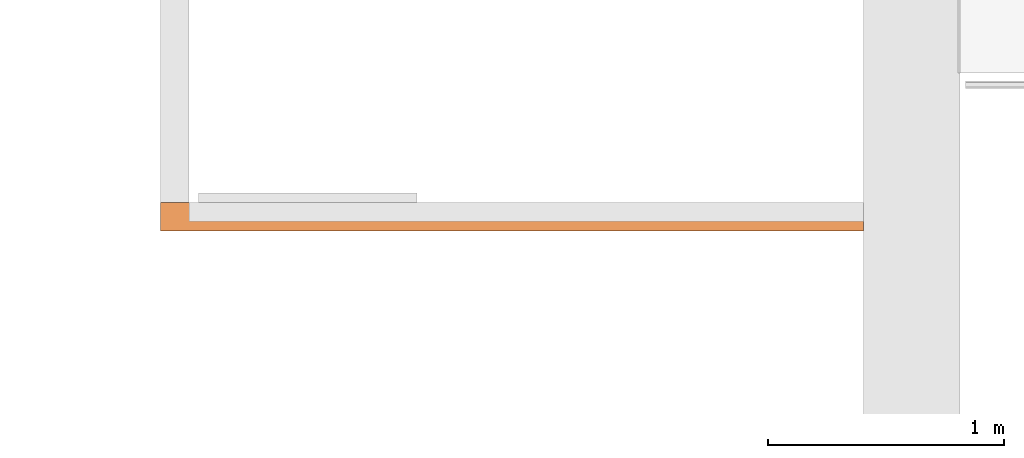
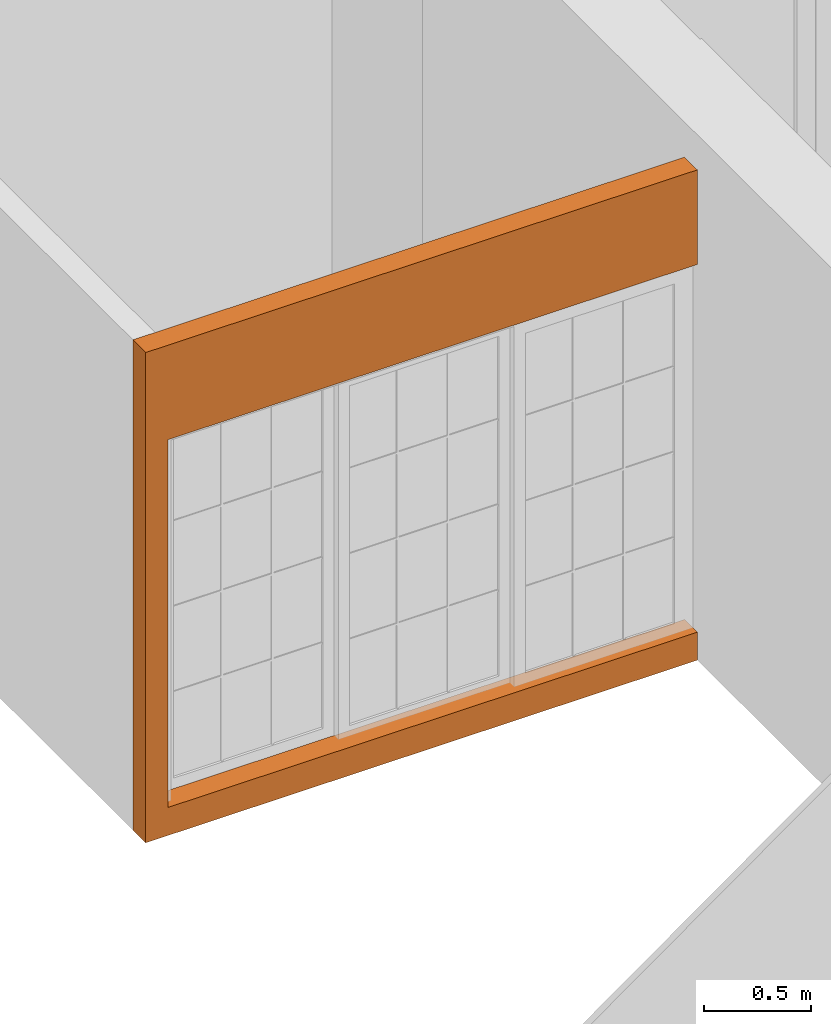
# One storey, part 40 of 64: 1 proxy, 1 opening.
"""IFC2X3 building model written with IfcOpenShell, lengths in millimetres."""

import ifcopenshell
import ifcopenshell.guid

model = None  # the IFC model being written
_history = None  # IfcOwnerHistory: only IFC2X3 demands one
_inside = {}  # id of a spatial element -> (the spatial element, [elements in it])
_under = {}  # id of a project, library or spatial element -> (it, [spatial elements below it])
_declared = {}  # id of a project -> (the project, [libraries it declares])
_typed = {}  # id of a type object -> (the type object, [elements of that type])
_made_of = {}  # id of a material, layer set ... -> (it, [elements and type objects made of it])


def new_model(schema):
    """Start an empty IFC model of exactly this schema.

    Asked for "IFC4X3", IfcOpenShell would pick the latest addendum, in which some entities
    have other attributes; the version numbers below select the first issue.
    IFC2X3 requires an IfcOwnerHistory on every rooted entity: one is made here for all.
    """
    global model, _history
    if schema == "IFC4X3":
        model = ifcopenshell.file(schema_version=(4, 3, 0, 0))
    else:
        model = ifcopenshell.file(schema=schema)
    _inside.clear()
    _under.clear()
    _declared.clear()
    _typed.clear()
    _made_of.clear()
    _history = None
    if model.schema == "IFC2X3":
        org = make("IfcOrganization", Name="unknown")
        user = make(
            "IfcPersonAndOrganization",
            ThePerson=make("IfcPerson", FamilyName="unknown"),
            TheOrganization=org,
        )
        app = make(
            "IfcApplication",
            ApplicationDeveloper=org,
            Version="unknown",
            ApplicationFullName="unknown",
            ApplicationIdentifier="unknown",
        )
        _history = make(
            "IfcOwnerHistory",
            OwningUser=user,
            OwningApplication=app,
            ChangeAction="ADDED",
            CreationDate=0,
        )
    return model


def make(cls, **values):
    """One entity of the class cls with the attributes given. An attribute that is None is left unset."""
    return model.create_entity(
        cls, **{name: value for name, value in values.items() if value is not None}
    )


def entity(cls, *values):
    """Any entity or typed value of the class cls, its attributes in the order of the schema. None: left unset."""
    e = model.create_entity(cls)
    for i, value in enumerate(values):
        if value is not None:
            e[i] = value
    return e


def rooted(cls, **values):
    """An entity with a GlobalId (a new one), such as an element, a storey or a relation."""
    return make(cls, GlobalId=ifcopenshell.guid.new(), OwnerHistory=_history, **values)


def si_unit(unit_type, name, prefix=None):
    """IfcSIUnit, for example si_unit("LENGTHUNIT", "METRE", prefix="MILLI")."""
    return make("IfcSIUnit", UnitType=unit_type, Prefix=prefix, Name=name)


def converted_unit(unit_type, name, factor, base, dimensions=None, offset=None):
    """IfcConversionBasedUnit, such as the inch: factor (a typed value) times the base unit."""
    return make(
        "IfcConversionBasedUnit"
        if offset is None
        else "IfcConversionBasedUnitWithOffset",
        ConversionOffset=offset,
        Dimensions=None
        if dimensions is None
        else entity("IfcDimensionalExponents", *dimensions),
        UnitType=unit_type,
        Name=name,
        ConversionFactor=make(
            "IfcMeasureWithUnit", ValueComponent=factor, UnitComponent=base
        ),
    )


def derived_unit(unit_type, elements):
    """IfcDerivedUnit: a product of units, each with its exponent."""
    return make(
        "IfcDerivedUnit",
        Elements=[
            make("IfcDerivedUnitElement", Unit=unit, Exponent=power)
            for unit, power in elements
        ],
        UnitType=unit_type,
    )


def money_unit(currency):
    """IfcMonetaryUnit."""
    return make("IfcMonetaryUnit", Currency=currency)


def assignment(units):
    """IfcUnitAssignment: the units of a project."""
    return None if units is None else make("IfcUnitAssignment", Units=units)


def point(xyz):
    """IfcCartesianPoint."""
    return None if xyz is None else make("IfcCartesianPoint", Coordinates=xyz)


def direction(xyz):
    """IfcDirection."""
    return None if xyz is None else make("IfcDirection", DirectionRatios=xyz)


def frame(location, z_axis=None, x_axis=None):
    """IfcAxis2Placement3D, a coordinate frame: its origin and axes. An axis left out is left unset."""
    return make(
        "IfcAxis2Placement3D",
        Location=point(location),
        Axis=direction(z_axis),
        RefDirection=direction(x_axis),
    )


def frame_2d(location, x_axis=None):
    """IfcAxis2Placement2D, a coordinate frame in the plane: its origin and x axis."""
    return make(
        "IfcAxis2Placement2D", Location=point(location), RefDirection=direction(x_axis)
    )


def origin_with_axes():
    """The frame at (0, 0, 0) with the z axis (0, 0, 1) and the x axis (1, 0, 0) written out."""
    return frame((0.0, 0.0, 0.0), z_axis=(0.0, 0.0, 1.0), x_axis=(1.0, 0.0, 0.0))


def origin_2d_with_axis():
    """The frame at (0, 0) in the plane with the x axis (1, 0) written out."""
    return frame_2d((0.0, 0.0), x_axis=(1.0, 0.0))


def place(relative_to, where):
    """IfcLocalPlacement: puts the frame where relative to a parent placement (None: the world)."""
    return make(
        "IfcLocalPlacement", PlacementRelTo=relative_to, RelativePlacement=where
    )


def context(
    kind, dimensions, precision=None, world=None, true_north=None, identifier=None
):
    """IfcGeometricRepresentationContext, for example the 3D "Model" context."""
    return make(
        "IfcGeometricRepresentationContext",
        ContextIdentifier=identifier,
        ContextType=kind,
        CoordinateSpaceDimension=dimensions,
        Precision=precision,
        WorldCoordinateSystem=world,
        TrueNorth=true_north,
    )


def subcontext(parent, identifier, kind, view, scale=None):
    """IfcGeometricRepresentationSubContext, for example "Body" below "Model"."""
    return make(
        "IfcGeometricRepresentationSubContext",
        ContextIdentifier=identifier,
        ContextType=kind,
        ParentContext=parent,
        TargetScale=scale,
        TargetView=view,
    )


def project(units=None, contexts=None):
    """IfcProject with its units and contexts."""
    return rooted(
        "IfcProject",
        Name="project",
        RepresentationContexts=contexts,
        UnitsInContext=assignment(units),
    )


def spatial(cls, under=None, at=None, **own):
    """A site, building, storey or space (cls), placed at a placement, below another one or the project."""
    s = rooted(cls, ObjectPlacement=at, **own)
    if under is not None:
        _under.setdefault(under.id(), (under, []))[1].append(s)
    return s


def profile(cls, at=None, kind="AREA", **sizes):
    """A parametric profile (cls). Its sizes go by their IFC names, for example OverallWidth=200.0."""
    return make(cls, ProfileType=kind, Position=at, **sizes)


def rectangle(**sizes):
    """IfcRectangleProfileDef."""
    return profile("IfcRectangleProfileDef", **sizes)


def extrude(swept, where, along, depth):
    """IfcExtrudedAreaSolid: the profile swept, set in the frame where, extruded along a direction by depth."""
    return make(
        "IfcExtrudedAreaSolid",
        SweptArea=swept,
        Position=where,
        ExtrudedDirection=direction(along),
        Depth=depth,
    )


def faces_of(points, faces, orient=None, outer=None):
    """IfcFace entities. A face is a list of loops; a loop is a list of indices into points, from 0.

    orient and outer hold one flag for each loop. By default every Orientation is true, the
    first loop of a face is its IfcFaceOuterBound and the others are IfcFaceBound.
    """
    made = []
    for i, loops in enumerate(faces):
        bounds = []
        for j, loop in enumerate(loops):
            is_outer = j == 0 if outer is None else outer[i][j]
            bounds.append(
                make(
                    "IfcFaceOuterBound" if is_outer else "IfcFaceBound",
                    Bound=make("IfcPolyLoop", Polygon=[points[k] for k in loop]),
                    Orientation=True if orient is None else orient[i][j],
                )
            )
        made.append(make("IfcFace", Bounds=bounds))
    return made


def faceted_brep(points, faces, orient=None, outer=None, voids=None):
    """IfcFacetedBrep: a solid bounded by flat faces; with voids (closed shells), ...WithVoids."""
    shared = [point(p) for p in points]
    hull = make("IfcClosedShell", CfsFaces=faces_of(shared, faces, orient, outer))
    if voids is None:
        return make("IfcFacetedBrep", Outer=hull)
    return make(
        "IfcFacetedBrepWithVoids",
        Outer=hull,
        Voids=[
            make(cls, CfsFaces=faces_of(shared, fs, o, b)) for cls, fs, o, b in voids
        ],
    )


def shape(context_of_items, identifier, shape_type, items):
    """IfcShapeRepresentation: the items that make up one representation, for example the "Body"."""
    return make(
        "IfcShapeRepresentation",
        ContextOfItems=context_of_items,
        RepresentationIdentifier=identifier,
        RepresentationType=shape_type,
        Items=items,
    )


def material(Name=None, Category=None):
    """IfcMaterial."""
    return make("IfcMaterial", Name=Name, Category=Category)


def made_of(thing, what):
    """Note that an element or type object is made of a material, layer set ...; save() writes the relation."""
    if what is not None:
        _made_of.setdefault(what.id(), (what, []))[1].append(thing)
    return thing


def type_object(cls, material=None, **own):
    """A type object (cls), such as IfcWallType, which elements share."""
    return made_of(rooted(cls, **own), material)


def element(
    cls,
    number,
    at=None,
    inside=None,
    cuts=None,
    type_object=None,
    material=None,
    context=None,
    identifier="Body",
    shape_type=None,
    held_by="IfcProductDefinitionShape",
    body=None,
    shapes=None,
    **own,
):
    """One element of the class cls, such as IfcWall. Its Tag is "e" and its number.

    at: its placement. inside: the storey or other place that contains it. cuts: it is an
    opening in that element (IfcRelVoidsElement). A single representation is given by context,
    identifier, shape_type and body (its items); several are given by shapes. held_by: the class
    of the entity that holds the representations. save() writes the other relations.
    """
    e = rooted(cls, Tag="e%d" % number, ObjectPlacement=at, **own)
    if body is not None:
        shapes = [shape(context, identifier, shape_type, body)]
    if shapes is not None:
        e.Representation = make(held_by, Representations=shapes)
    if inside is not None:
        _inside.setdefault(inside.id(), (inside, []))[1].append(e)
    if cuts is not None:
        rooted(
            "IfcRelVoidsElement", RelatingBuildingElement=cuts, RelatedOpeningElement=e
        )
    if type_object is not None:
        _typed.setdefault(type_object.id(), (type_object, []))[1].append(e)
    return made_of(e, material)


def aggregate(whole, parts):
    """IfcRelAggregates: a whole, such as a stair, and the parts it consists of."""
    return rooted("IfcRelAggregates", RelatingObject=whole, RelatedObjects=parts)


def save(model, path):
    """Write the relations noted so far, then the file.

    IfcRelAggregates (storeys below a building ...), IfcRelContainedInSpatialStructure (elements
    in a storey), IfcRelDefinesByType, IfcRelAssociatesMaterial and IfcRelDeclares: one each for
    every whole, place, type object, material and project.
    """
    for whole, parts in _under.values():
        aggregate(whole, parts)
    for where, things in _inside.values():
        rooted(
            "IfcRelContainedInSpatialStructure",
            RelatedElements=things,
            RelatingStructure=where,
        )
    for kind, things in _typed.values():
        rooted("IfcRelDefinesByType", RelatedObjects=things, RelatingType=kind)
    for what, things in _made_of.values():
        rooted("IfcRelAssociatesMaterial", RelatedObjects=things, RelatingMaterial=what)
    for by, libraries in _declared.values():
        rooted("IfcRelDeclares", RelatingContext=by, RelatedDefinitions=libraries)
    model.write(path)


model = new_model("IFC2X3")

# Units and contexts
model_context = context("Model", 3, precision=0.01, world=origin_with_axes(), true_north=direction((0.34421633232, 0.938890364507)))
body_context = subcontext(model_context, "Body", "Model", "MODEL_VIEW")
ifc_project = project(units=[si_unit("LENGTHUNIT", "METRE", prefix="MILLI"), si_unit("AREAUNIT", "SQUARE_METRE"), si_unit("VOLUMEUNIT", "CUBIC_METRE"), converted_unit("PLANEANGLEUNIT", "DEGREE", entity("IfcPlaneAngleMeasure", 0.0174532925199), si_unit("PLANEANGLEUNIT", "RADIAN"), dimensions=[0, 0, 0, 0, 0, 0, 0]), si_unit("SOLIDANGLEUNIT", "STERADIAN"), money_unit("USD"), converted_unit("TIMEUNIT", "Year", entity("IfcTimeMeasure", 31556926.0), si_unit("TIMEUNIT", "SECOND"), dimensions=[0, 0, 1, 0, 0, 0, 0]), si_unit("MASSUNIT", "GRAM", prefix="KILO"), si_unit("THERMODYNAMICTEMPERATUREUNIT", "DEGREE_CELSIUS"), si_unit("LUMINOUSINTENSITYUNIT", "LUMEN"), si_unit("ENERGYUNIT", "JOULE", prefix="MEGA"), derived_unit("THERMALCONDUCTANCEUNIT", [(si_unit("POWERUNIT", "WATT"), 1), (si_unit("LENGTHUNIT", "METRE"), -1), (si_unit("THERMODYNAMICTEMPERATUREUNIT", "KELVIN"), -1)]), derived_unit("SPECIFICHEATCAPACITYUNIT", [(si_unit("ENERGYUNIT", "JOULE"), 1), (si_unit("MASSUNIT", "GRAM", prefix="KILO"), -1), (si_unit("THERMODYNAMICTEMPERATUREUNIT", "KELVIN"), -1)]), derived_unit("MASSDENSITYUNIT", [(si_unit("MASSUNIT", "GRAM", prefix="KILO"), 1), (si_unit("VOLUMEUNIT", "CUBIC_METRE"), -1)])], contexts=[model_context])

# Site, building, storey
site_placement = place(None, origin_with_axes())
site = spatial("IfcSite", under=ifc_project, at=site_placement, Name="USTRONIE MORSKIE", CompositionType="ELEMENT")
building_placement = place(site_placement, origin_with_axes())
building = spatial("IfcBuilding", under=site, at=building_placement, Name="Budynek", CompositionType="ELEMENT")
storey_placement = place(building_placement, frame((0.0, 0.0, 7000.0), z_axis=(0.0, 0.0, 1.0), x_axis=(1.0, 0.0, 0.0)))
storey = spatial("IfcBuildingStorey", under=building, at=storey_placement, Name="PIĘTRO 2", CompositionType="ELEMENT", Elevation=7000.0)

# Proxy, opening
ifc_material = material(Name="Bloczki silikatowe")
building_element_proxy_type = type_object("IfcBuildingElementProxyType", Name="Bloczki silikatowe 120", PredefinedType="NOTDEFINED")
proxy_placement = place(storey_placement, frame((396317.920919, 724391.199036, -160.0), z_axis=(0.0, 0.0, 1.0), x_axis=(-1.0, 0.0, 0.0)))
proxy = element("IfcBuildingElementProxy", 1, at=proxy_placement, inside=storey, type_object=building_element_proxy_type, material=ifc_material, Name="SW-04", context=body_context, shape_type="Brep", body=[
    faceted_brep([(3080.0, 59.9999999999, 0.0), (3080.0, -59.9999999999, 0.0), (100.0, -59.9999999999, 0.0), (100.0, 59.9999999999, 0.0), (3080.0, 59.9999999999, 2800.0), (3080.0, -59.9999999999, 2800.0), (100.0, -59.9999999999, 2800.0), (100.0, 59.9999999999, 2800.0)], [[[0, 1, 2, 3]], [[1, 0, 4, 5]], [[1, 5, 6, 2]], [[7, 3, 2, 6]], [[4, 0, 3, 7]], [[5, 4, 7, 6]]]),
])
opening_placement = place(proxy_placement, frame((1530.0, 0.0, 160.0), z_axis=(0.0, 0.0, 1.0), x_axis=(1.0, 0.0, 0.0)))
element("IfcOpeningElement", 2, at=opening_placement, cuts=proxy, Name="D-WC", context=body_context, shape_type="SweptSolid", body=[
    extrude(rectangle(XDim=2860.0, YDim=2100.0, at=origin_2d_with_axis()), frame((0.0, 120.0, 1050.0), z_axis=(0.0, 1.0, 0.0), x_axis=(-1.0, 0.0, 0.0)), (0.0, 0.0, -1.0), 360.0),
])

save(model, "model.ifc")
